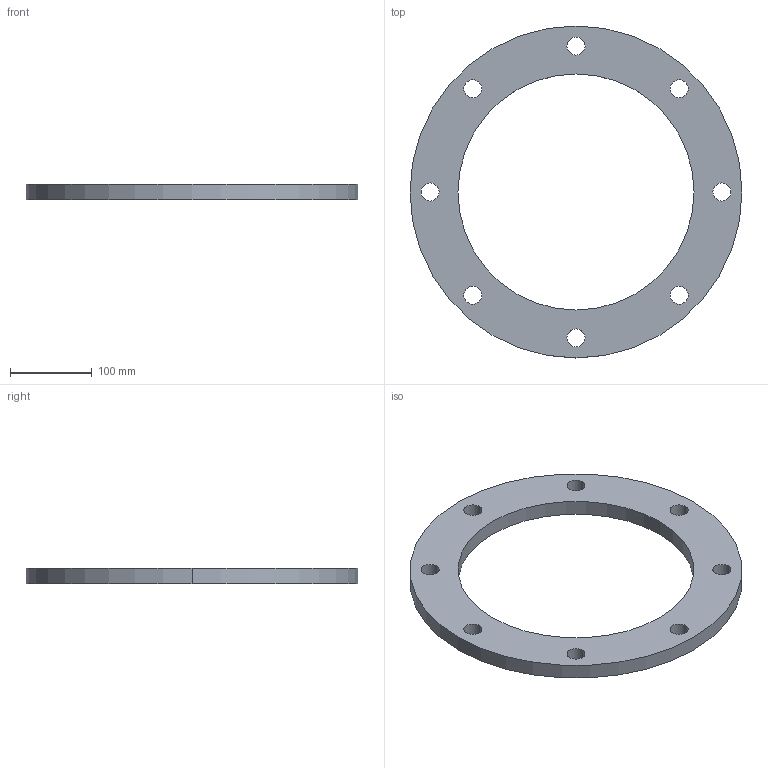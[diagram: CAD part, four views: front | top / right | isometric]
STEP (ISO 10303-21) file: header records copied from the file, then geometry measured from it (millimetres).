
FILE_DESCRIPTION (( 'STEP AP214' ), '1' );
FILE_NAME ('BRD250PN16SS.STEP', '2021-05-14T12:13:05', ( 'D002203' ), ( 'Fusion Group Ltd.' ), 'SwSTEP 2.0', 'SolidWorks 2019', '' );
FILE_SCHEMA (( 'AUTOMOTIVE_DESIGN' ));
Length unit declared in the file: millimetre
Products named in the file (1): BRD250PN16SS
Bounding box: 405 x 405 x 19 mm (x, y, z)
Volume: 1152156.3 mm3; surface area: 173150.4 mm2
Topology: 1 solids, 1 shells, 22 faces, 60 edges, 40 vertices
Faces by surface type: cylinder 20, plane 2
Entity records: 794 total; most frequent: DIRECTION 146, CARTESIAN_POINT 123, ORIENTED_EDGE 120, AXIS2_PLACEMENT_3D 63, EDGE_CURVE 60, CIRCLE 40, VERTEX_POINT 40, EDGE_LOOP 40
